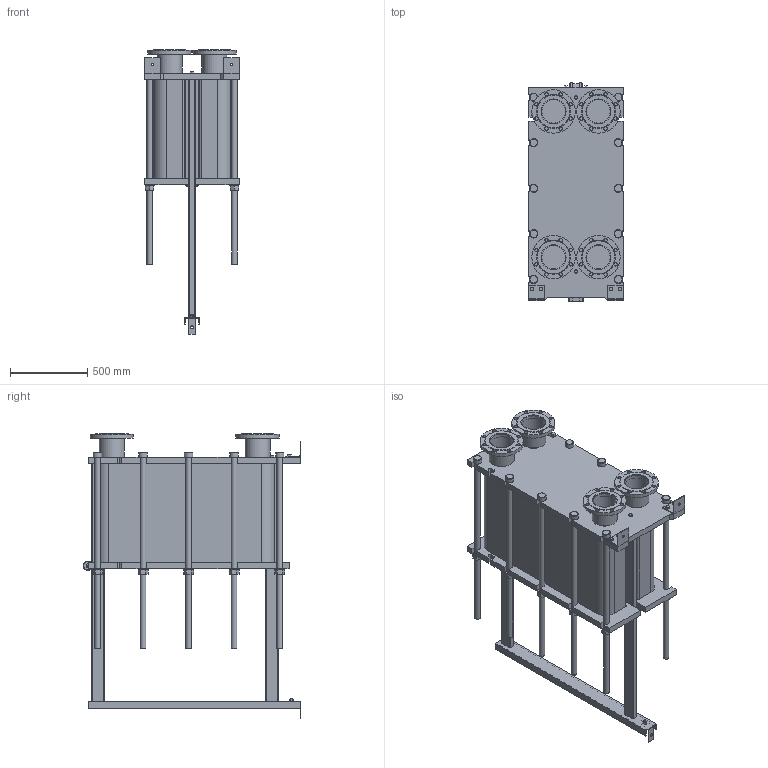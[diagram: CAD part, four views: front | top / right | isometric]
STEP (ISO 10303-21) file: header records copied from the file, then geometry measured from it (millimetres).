
FILE_DESCRIPTION(/* description */ (''),/* implementation_level */ '2;1');
FILE_NAME(/* name */ 'C:\Users\zhuro\Desktop\ENCO\TO\ЭН-041\ЭН-0,5-041-186-1.stp',/* time_stamp */ '2022-06-06T11:05:31+03:00',/* author */ ('zhuro'),/* organization */ (''),/* preprocessor_version */ 'ST-DEVELOPER v18.1',/* originating_system */ 'Autodesk Inventor 2022',/* authorisation */ '');
FILE_SCHEMA (('AUTOMOTIVE_DESIGN { 1 0 10303 214 3 1 1 }'));
Length unit declared in the file: millimetre
Products named in the file (1): ЭН-0,5-041-186-1
Bounding box: 610 x 1406.5 x 1835 mm (x, y, z)
Volume: 447432593.7 mm3; surface area: 10920740.6 mm2
Topology: 52 solids, 52 shells, 711 faces, 1696 edges, 1094 vertices
Faces by surface type: plane 487, cylinder 177, cone 41, torus 6
Full cylindrical faces by diameter (mm): 8 x4, 10 x2, 16 x8, 18 x3, 22 x32, 36 x24, 50 x1, 54 x10, 60 x12, 151 x4, 161 x8, 280 x4
Entity records: 22667 total; most frequent: CARTESIAN_POINT 5230, DIRECTION 3644, ORIENTED_EDGE 3392, EDGE_CURVE 1696, AXIS2_PLACEMENT_3D 1272, LINE 1100, VECTOR 1100, VERTEX_POINT 1094
